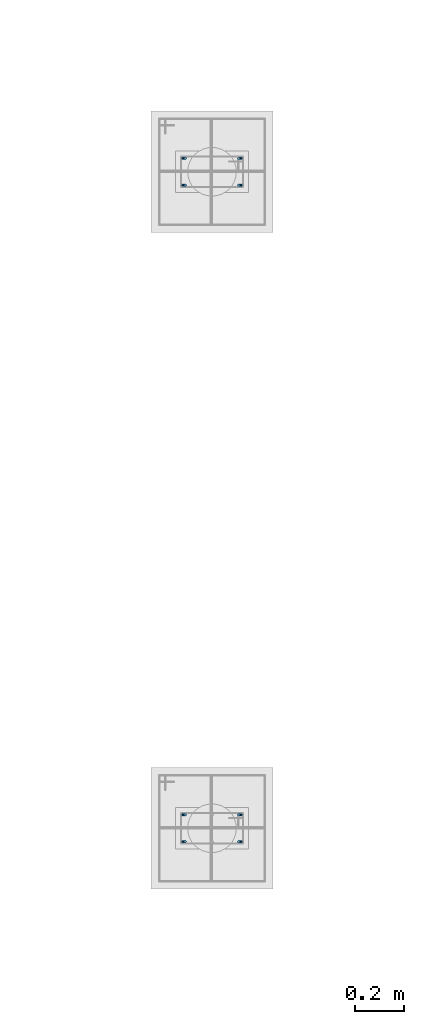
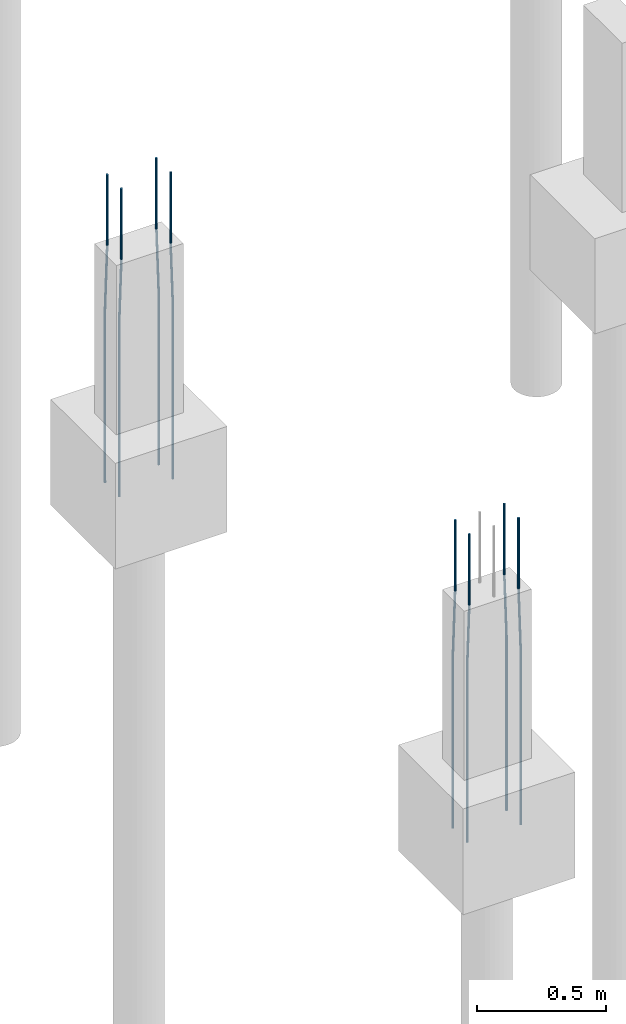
# One storey, part 45 of 119: 8 reinforcing bars.
"""IFC4 building model written with IfcOpenShell, lengths in centimetres."""

from ifc_helpers import new_model, entity, si_unit, derived_unit, frame, origin_with_axes, place, context, project, spatial, element, save


model = new_model("IFC4")

# Units and contexts
model_context = context("Model", 3, precision=1e-05, world=origin_with_axes(), identifier="Body")
ifc_project = project(units=[si_unit("LENGTHUNIT", "METRE", prefix="CENTI"), si_unit("VOLUMEUNIT", "CUBIC_METRE"), si_unit("AREAUNIT", "SQUARE_METRE"), si_unit("POWERUNIT", "WATT"), si_unit("LUMINOUSFLUXUNIT", "LUMEN"), si_unit("ELECTRICCURRENTUNIT", "AMPERE"), si_unit("PRESSUREUNIT", "PASCAL", prefix="KILO"), si_unit("MASSUNIT", "GRAM", prefix="KILO"), si_unit("PLANEANGLEUNIT", "RADIAN"), derived_unit("VOLUMETRICFLOWRATEUNIT", [(si_unit("LENGTHUNIT", "METRE"), 3), (si_unit("TIMEUNIT", "SECOND"), -1)])], contexts=[model_context])

# Site, building, storey
site_placement = place(None, frame((-4000.0, 0.0, 0.0), z_axis=(0.0, 0.0, 1.0), x_axis=(1.0, 0.0, 0.0)))
site = spatial("IfcSite", under=ifc_project, at=site_placement, Name="PADRÃO")
building_placement = place(site_placement, frame((0.0, 0.0, -14.0)))
building = spatial("IfcBuilding", under=site, at=building_placement, Name="CRECHE PRÉ-ESCOLA TIPO 2")
storey_placement = place(building_placement, origin_with_axes())
storey = spatial("IfcBuildingStorey", under=building, at=storey_placement, Name="FUNDAÇÃO", CompositionType="ELEMENT", Elevation=-14.0)

# Reinforcing bars
reinforcing_bar_1_placement = place(storey_placement, frame((278.51, 3464.5, 33.3573001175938), z_axis=(0.0, 0.0, 1.0), x_axis=(1.0, 0.0, 0.0)))
element("IfcReinforcingBar", 1, at=reinforcing_bar_1_placement, inside=storey, Name="P36 - Longitudinal", BarLength=0.0, CrossSectionArea=7.853981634e-05, NominalDiameter=1.0, PredefinedType="MAIN", context=model_context, shape_type="AdvancedSweptSolid", body=[
    entity("IfcSweptDiskSolid", entity("IfcCompositeCurve", [entity("IfcCompositeCurveSegment", "CONTINUOUS", True, entity("IfcPolyline", [entity("IfcCartesianPoint", [0.5, 0.0, -145.357300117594]), entity("IfcCartesianPoint", [0.5, 0.0, -63.3573001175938])])), entity("IfcCompositeCurveSegment", "CONTINUOUS", True, entity("IfcPolyline", [entity("IfcCartesianPoint", [0.5, 0.0, -63.3573001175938]), entity("IfcCartesianPoint", [-0.5, 0.0, -33.3573001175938])])), entity("IfcCompositeCurveSegment", "CONTINUOUS", True, entity("IfcPolyline", [entity("IfcCartesianPoint", [-0.5, 0.0, -33.3573001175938]), entity("IfcCartesianPoint", [-0.5, 0.0, 0.0])]))], False), 0.5),
])
for number, where, z_axis, x_axis, name in (
    (2, (255.51, 3464.5, 33.3573001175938), (0.0, 0.0, 1.0), (1.0, 0.0, 0.0), "P36 - Longitudinal"),
    (3, (255.51, 3475.5, 33.3573001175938), (0.0, 0.0, 1.0), (1.0, 0.0, 0.0), "P36 - Longitudinal"),
):
    element("IfcReinforcingBar", number, at=place(storey_placement, frame(where, z_axis=z_axis, x_axis=x_axis)), inside=storey, Name=name, BarLength=0.0, CrossSectionArea=7.853981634e-05, NominalDiameter=1.0, PredefinedType="MAIN", context=model_context, shape_type="AdvancedSweptSolid", body=[
        entity("IfcSweptDiskSolid", entity("IfcCompositeCurve", [entity("IfcCompositeCurveSegment", "CONTINUOUS", True, entity("IfcPolyline", [entity("IfcCartesianPoint", [-0.5, 0.0, -145.357300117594]), entity("IfcCartesianPoint", [-0.5, 0.0, -63.3573001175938])])), entity("IfcCompositeCurveSegment", "CONTINUOUS", True, entity("IfcPolyline", [entity("IfcCartesianPoint", [-0.5, 0.0, -63.3573001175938]), entity("IfcCartesianPoint", [0.5, 0.0, -33.3573001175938])])), entity("IfcCompositeCurveSegment", "CONTINUOUS", True, entity("IfcPolyline", [entity("IfcCartesianPoint", [0.5, 0.0, -33.3573001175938]), entity("IfcCartesianPoint", [0.5, 0.0, 0.0])]))], False), 0.5),
    ])
reinforcing_bar_2_placement = place(storey_placement, frame((278.51, 3475.5, 33.3573001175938), z_axis=(0.0, 0.0, 1.0), x_axis=(1.0, 0.0, 0.0)))
element("IfcReinforcingBar", 4, at=reinforcing_bar_2_placement, inside=storey, Name="P36 - Longitudinal", BarLength=0.0, CrossSectionArea=7.853981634e-05, NominalDiameter=1.0, PredefinedType="MAIN", context=model_context, shape_type="AdvancedSweptSolid", body=[
    entity("IfcSweptDiskSolid", entity("IfcCompositeCurve", [entity("IfcCompositeCurveSegment", "CONTINUOUS", True, entity("IfcPolyline", [entity("IfcCartesianPoint", [0.5, 0.0, -145.357300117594]), entity("IfcCartesianPoint", [0.5, 0.0, -63.3573001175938])])), entity("IfcCompositeCurveSegment", "CONTINUOUS", True, entity("IfcPolyline", [entity("IfcCartesianPoint", [0.5, 0.0, -63.3573001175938]), entity("IfcCartesianPoint", [-0.5, 0.0, -33.3573001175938])])), entity("IfcCompositeCurveSegment", "CONTINUOUS", True, entity("IfcPolyline", [entity("IfcCartesianPoint", [-0.5, 0.0, -33.3573001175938]), entity("IfcCartesianPoint", [-0.5, 0.0, 0.0])]))], False), 0.5),
])
for number, where, z_axis, x_axis, name in (
    (5, (255.5, 3206.0, 33.3573001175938), (0.0, 0.0, 1.0), (1.0, 0.0, 0.0), "P47 - Longitudinal"),
    (6, (255.5, 3195.0, 33.3573001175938), (0.0, 0.0, 1.0), (1.0, 0.0, 0.0), "P47 - Longitudinal"),
):
    element("IfcReinforcingBar", number, at=place(storey_placement, frame(where, z_axis=z_axis, x_axis=x_axis)), inside=storey, Name=name, BarLength=0.0, CrossSectionArea=7.853981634e-05, NominalDiameter=1.0, PredefinedType="MAIN", context=model_context, shape_type="AdvancedSweptSolid", body=[
        entity("IfcSweptDiskSolid", entity("IfcCompositeCurve", [entity("IfcCompositeCurveSegment", "CONTINUOUS", True, entity("IfcPolyline", [entity("IfcCartesianPoint", [-0.5, 0.0, -145.357300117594]), entity("IfcCartesianPoint", [-0.5, 0.0, -63.3573001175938])])), entity("IfcCompositeCurveSegment", "CONTINUOUS", True, entity("IfcPolyline", [entity("IfcCartesianPoint", [-0.5, 0.0, -63.3573001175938]), entity("IfcCartesianPoint", [0.5, 0.0, -33.3573001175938])])), entity("IfcCompositeCurveSegment", "CONTINUOUS", True, entity("IfcPolyline", [entity("IfcCartesianPoint", [0.5, 0.0, -33.3573001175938]), entity("IfcCartesianPoint", [0.5, 0.0, 0.0])]))], False), 0.5),
    ])
for number, where, z_axis, x_axis, name in (
    (7, (278.5, 3206.0, 33.3573001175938), (0.0, 0.0, 1.0), (1.0, 0.0, 0.0), "P47 - Longitudinal"),
    (8, (278.5, 3195.0, 33.3573001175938), (0.0, 0.0, 1.0), (1.0, 0.0, 0.0), "P47 - Longitudinal"),
):
    element("IfcReinforcingBar", number, at=place(storey_placement, frame(where, z_axis=z_axis, x_axis=x_axis)), inside=storey, Name=name, BarLength=0.0, CrossSectionArea=7.853981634e-05, NominalDiameter=1.0, PredefinedType="MAIN", context=model_context, shape_type="AdvancedSweptSolid", body=[
        entity("IfcSweptDiskSolid", entity("IfcCompositeCurve", [entity("IfcCompositeCurveSegment", "CONTINUOUS", True, entity("IfcPolyline", [entity("IfcCartesianPoint", [0.5, 0.0, -145.357300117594]), entity("IfcCartesianPoint", [0.5, 0.0, -63.3573001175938])])), entity("IfcCompositeCurveSegment", "CONTINUOUS", True, entity("IfcPolyline", [entity("IfcCartesianPoint", [0.5, 0.0, -63.3573001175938]), entity("IfcCartesianPoint", [-0.5, 0.0, -33.3573001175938])])), entity("IfcCompositeCurveSegment", "CONTINUOUS", True, entity("IfcPolyline", [entity("IfcCartesianPoint", [-0.5, 0.0, -33.3573001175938]), entity("IfcCartesianPoint", [-0.5, 0.0, 0.0])]))], False), 0.5),
    ])

save(model, "model.ifc")
